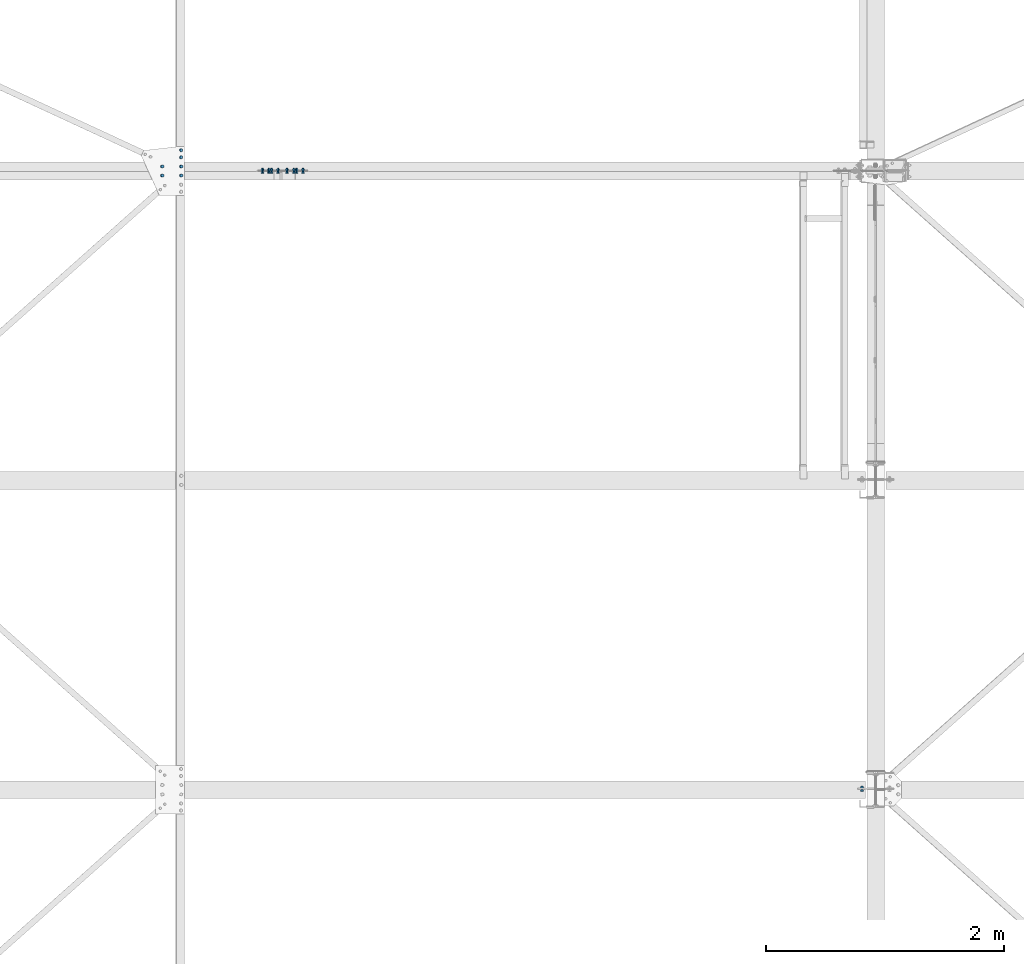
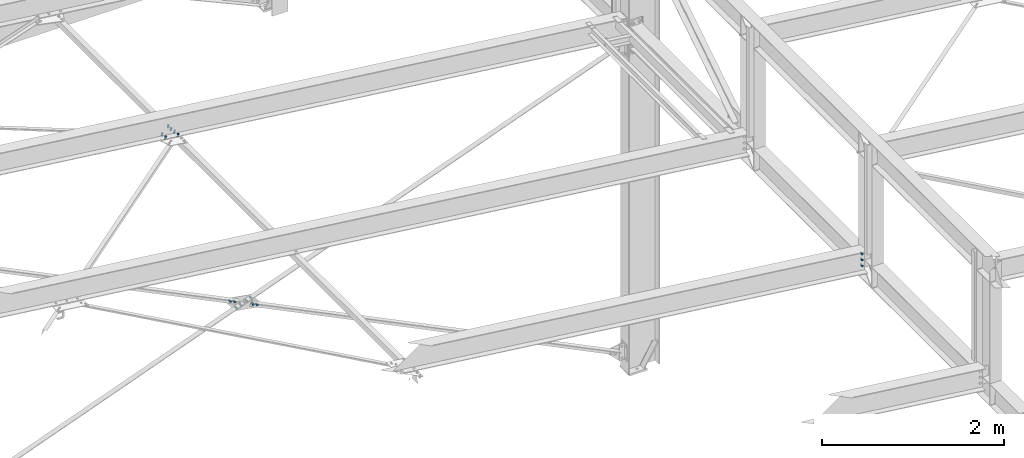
# One storey, part 292 of 3134: 7 mechanical fasteners, 7 elements without a shape of their own.
"""IFC2X3 building model written with IfcOpenShell, lengths in millimetres."""

from ifc_helpers import new_model, si_unit, frame, origin_with_axes, place, context, subcontext, project, spatial, faceted_brep, source, transform, mapped, material, type_object, element, aggregate, save


model = new_model("IFC2X3")

# Units and contexts
model_context = context("Model", 3, precision=1e-05, world=origin_with_axes())
body_context = subcontext(model_context, "Body", "Model", "MODEL_VIEW")
ifc_project = project(units=[si_unit("LENGTHUNIT", "METRE", prefix="MILLI"), si_unit("AREAUNIT", "SQUARE_METRE"), si_unit("VOLUMEUNIT", "CUBIC_METRE"), si_unit("MASSUNIT", "GRAM", prefix="KILO"), si_unit("TIMEUNIT", "SECOND"), si_unit("PLANEANGLEUNIT", "RADIAN"), si_unit("SOLIDANGLEUNIT", "STERADIAN"), si_unit("THERMODYNAMICTEMPERATUREUNIT", "DEGREE_CELSIUS"), si_unit("LUMINOUSINTENSITYUNIT", "LUMEN")], contexts=[model_context])

# Site, building, storey
site_placement = place(None, origin_with_axes())
site = spatial("IfcSite", under=ifc_project, at=site_placement, CompositionType="ELEMENT")
building_placement = place(site_placement, origin_with_axes())
building = spatial("IfcBuilding", under=site, at=building_placement, Name="Undefined", CompositionType="ELEMENT")
storey_placement = place(building_placement, origin_with_axes())
storey = spatial("IfcBuildingStorey", under=building, at=storey_placement, Name="Undefined", CompositionType="ELEMENT", Elevation=0.0)

# Assembly, mechanical fastener
assembly_1_placement = place(storey_placement, origin_with_axes())
assembly_1 = element("IfcElementAssembly", 1, at=assembly_1_placement, inside=storey, Name="300", AssemblyPlace="NOTDEFINED", PredefinedType="RIGID_FRAME")
ifc_material = material(Name="8.8")
mechanical_fastener_type = type_object("IfcMechanicalFastenerType", Name="Bolt assembly")
shared_shape_1 = source(origin_with_axes(), body_context, "Body", "Brep", [
    faceted_brep([(13.856406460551, -13.0499999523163, 0.0), (6.92820323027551, -13.0499999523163, 12.0), (-6.92820323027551, -13.0499999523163, 12.0), (-13.856406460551, -13.0499999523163, 1.69692038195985e-15), (-6.92820323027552, -13.0499999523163, -12.0), (6.9282032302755, -13.0499999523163, -12.0), (6.9282032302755, -3.04999995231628, -12.0), (-6.92820323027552, -3.04999995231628, -12.0), (-13.856406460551, -3.04999995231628, 1.69692038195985e-15), (-6.92820323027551, -3.04999995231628, 12.0), (6.92820323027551, -3.04999995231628, 12.0), (13.856406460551, -3.04999995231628, 0.0), (8.0, -3.04999995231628, 0.0), (6.92820323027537, -3.04999995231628, 4.00000000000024), (3.99999999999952, -3.04999995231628, 6.92820323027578), (-8.29068785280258e-13, -3.04999995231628, 8.0), (-4.00000000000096, -3.04999995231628, 6.92820323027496), (-6.9282032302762, -3.04999995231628, 3.99999999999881), (-8.0, -3.04999995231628, -1.65813757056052e-12), (-6.92820323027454, -3.04999995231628, -4.00000000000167), (-3.99999999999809, -3.04999995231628, -6.92820323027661), (2.47832457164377e-12, -3.04999995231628, -8.0), (4.00000000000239, -3.04999995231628, -6.92820323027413), (6.92820323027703, -3.04999995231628, -3.99999999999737), (6.92820323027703, 31.9500000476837, -3.99999999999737), (4.00000000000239, 31.9500000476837, -6.92820323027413), (2.47832457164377e-12, 31.9500000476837, -8.0), (-3.99999999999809, 31.9500000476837, -6.92820323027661), (-6.92820323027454, 31.9500000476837, -4.00000000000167), (-8.0, 31.9500000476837, -1.65813757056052e-12), (-6.9282032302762, 31.9500000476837, 3.99999999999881), (-4.00000000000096, 31.9500000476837, 6.92820323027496), (-8.29068785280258e-13, 31.9500000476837, 8.0), (3.99999999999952, 31.9500000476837, 6.92820323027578), (6.92820323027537, 31.9500000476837, 4.00000000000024), (8.0, 31.9500000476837, 0.0), (13.856406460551, 13.0500000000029, 0.0), (6.92820323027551, 13.0500000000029, 12.0), (-6.92820323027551, 13.0500000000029, 12.0), (-13.856406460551, 13.0500000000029, 1.69692038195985e-15), (-6.92820323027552, 13.0500000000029, -12.0), (6.9282032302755, 13.0500000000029, -12.0), (6.9282032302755, 26.0500000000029, -12.0), (-6.92820323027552, 26.0500000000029, -12.0), (-13.856406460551, 26.0500000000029, 1.69692038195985e-15), (-6.92820323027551, 26.0500000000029, 12.0), (6.92820323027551, 26.0500000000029, 12.0), (13.856406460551, 26.0500000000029, 0.0)], [[[0, 1, 2, 3, 4, 5]], [[6, 7, 8, 9, 10, 11]], [[0, 11, 10, 1]], [[1, 10, 9, 2]], [[2, 9, 8, 3]], [[3, 8, 7, 4]], [[4, 7, 6, 5]], [[5, 6, 11, 0]], [[12, 13, 14, 15, 16, 17, 18, 19, 20, 21, 22, 23]], [[24, 25, 26, 27, 28, 29, 30, 31, 32, 33, 34, 35]], [[12, 35, 34, 13]], [[13, 34, 33, 14]], [[14, 33, 32, 15]], [[15, 32, 31, 16]], [[16, 31, 30, 17]], [[17, 30, 29, 18]], [[18, 29, 28, 19]], [[19, 28, 27, 20]], [[20, 27, 26, 21]], [[21, 26, 25, 22]], [[22, 25, 24, 23]], [[23, 24, 35, 12]], [[36, 37, 38, 39, 40, 41]], [[42, 43, 44, 45, 46, 47]], [[36, 47, 46, 37]], [[37, 46, 45, 38]], [[38, 45, 44, 39]], [[39, 44, 43, 40]], [[40, 43, 42, 41]], [[41, 42, 47, 36]]]),
    faceted_brep([(9.0, 2.95000000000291, 0.0), (7.79422863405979, 2.95000000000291, 4.50000000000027), (4.49999999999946, 2.95000000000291, 7.79422863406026), (-9.3270238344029e-13, 2.95000000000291, 9.0), (-4.50000000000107, 2.95000000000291, 7.79422863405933), (-7.79422863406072, 2.95000000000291, 4.49999999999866), (-9.0, 2.95000000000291, -1.86540476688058e-12), (-7.79422863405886, 2.95000000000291, -4.50000000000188), (-4.49999999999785, 2.95000000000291, -7.79422863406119), (2.78811514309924e-12, 2.95000000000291, -9.0), (4.50000000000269, 2.95000000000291, -7.7942286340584), (7.79422863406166, 2.95000000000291, -4.49999999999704), (7.79422863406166, 13.0500000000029, -4.49999999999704), (4.50000000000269, 13.0500000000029, -7.7942286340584), (2.78811514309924e-12, 13.0500000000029, -9.0), (-4.49999999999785, 13.0500000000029, -7.79422863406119), (-7.79422863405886, 13.0500000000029, -4.50000000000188), (-9.0, 13.0500000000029, -1.86540476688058e-12), (-7.79422863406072, 13.0500000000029, 4.49999999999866), (-4.50000000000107, 13.0500000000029, 7.79422863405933), (-9.3270238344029e-13, 13.0500000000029, 9.0), (4.49999999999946, 13.0500000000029, 7.79422863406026), (7.79422863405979, 13.0500000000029, 4.50000000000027), (9.0, 13.0500000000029, 0.0), (9.0, -2.94999995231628, 0.0), (7.79422863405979, -2.94999995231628, 4.50000000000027), (4.49999999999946, -2.94999995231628, 7.79422863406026), (-9.3270238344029e-13, -2.94999995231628, 9.0), (-4.50000000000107, -2.94999995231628, 7.79422863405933), (-7.79422863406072, -2.94999995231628, 4.49999999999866), (-9.0, -2.94999995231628, -1.86540476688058e-12), (-7.79422863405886, -2.94999995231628, -4.50000000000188), (-4.49999999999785, -2.94999995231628, -7.79422863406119), (2.78811514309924e-12, -2.94999995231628, -9.0), (4.50000000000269, -2.94999995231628, -7.7942286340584), (7.79422863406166, -2.94999995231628, -4.49999999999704), (7.79422863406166, 3.14999995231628, -4.49999999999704), (4.50000000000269, 3.14999995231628, -7.7942286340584), (2.78811514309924e-12, 3.14999995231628, -9.0), (-4.49999999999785, 3.14999995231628, -7.79422863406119), (-7.79422863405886, 3.14999995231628, -4.50000000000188), (-9.0, 3.14999995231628, -1.86540476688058e-12), (-7.79422863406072, 3.14999995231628, 4.49999999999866), (-4.50000000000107, 3.14999995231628, 7.79422863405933), (-9.3270238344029e-13, 3.14999995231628, 9.0), (4.49999999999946, 3.14999995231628, 7.79422863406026), (7.79422863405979, 3.14999995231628, 4.50000000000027), (9.0, 3.14999995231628, 0.0)], [[[0, 1, 2, 3, 4, 5, 6, 7, 8, 9, 10, 11]], [[12, 13, 14, 15, 16, 17, 18, 19, 20, 21, 22, 23]], [[0, 23, 22, 1]], [[1, 22, 21, 2]], [[2, 21, 20, 3]], [[3, 20, 19, 4]], [[4, 19, 18, 5]], [[5, 18, 17, 6]], [[6, 17, 16, 7]], [[7, 16, 15, 8]], [[8, 15, 14, 9]], [[9, 14, 13, 10]], [[10, 13, 12, 11]], [[11, 12, 23, 0]], [[24, 25, 26, 27, 28, 29, 30, 31, 32, 33, 34, 35]], [[36, 37, 38, 39, 40, 41, 42, 43, 44, 45, 46, 47]], [[24, 47, 46, 25]], [[25, 46, 45, 26]], [[26, 45, 44, 27]], [[27, 44, 43, 28]], [[28, 43, 42, 29]], [[29, 42, 41, 30]], [[30, 41, 40, 31]], [[31, 40, 39, 32]], [[32, 39, 38, 33]], [[33, 38, 37, 34]], [[34, 37, 36, 35]], [[35, 36, 47, 24]]]),
])
mechanical_fastener_1_placement = place(assembly_1_placement, frame((55760.0, 55850.0, 4337.44269270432), z_axis=(1.0, 0.0, 0.0), x_axis=(0.0, 0.0, -1.0)))
mechanical_fastener_1 = element("IfcMechanicalFastener", 2, at=mechanical_fastener_1_placement, type_object=mechanical_fastener_type, material=ifc_material, Name="Bolt assembly", NominalDiameter=16.0, NominalLength=35.0, context=body_context, shape_type="MappedRepresentation", body=[
    mapped(shared_shape_1, transform((0.0, 0.0, 0.0))),
    mapped(shared_shape_1, transform((80.0, 0.0, 0.0))),
    mapped(shared_shape_1, transform((160.0, 0.0, 0.0))),
])
aggregate(assembly_1, [mechanical_fastener_1])

assembly_2_placement = place(storey_placement, origin_with_axes())
assembly_2 = element("IfcElementAssembly", 3, at=assembly_2_placement, inside=storey, AssemblyPlace="NOTDEFINED", PredefinedType="RIGID_FRAME")
shared_shape_2 = source(origin_with_axes(), body_context, "Body", "Brep", [
    faceted_brep([(13.856406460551, -21.0000017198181, 0.0), (6.92820323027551, -21.0000017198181, 12.0), (-6.92820323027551, -21.0000017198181, 12.0), (-13.856406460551, -21.0000017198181, 1.69692038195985e-15), (-6.92820323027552, -21.0000017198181, -12.0), (6.9282032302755, -21.0000017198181, -12.0), (6.9282032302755, -11.0000017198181, -12.0), (-6.92820323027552, -11.0000017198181, -12.0), (-13.856406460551, -11.0000017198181, 1.69692038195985e-15), (-6.92820323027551, -11.0000017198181, 12.0), (6.92820323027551, -11.0000017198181, 12.0), (13.856406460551, -11.0000017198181, 0.0), (8.0, -11.0000017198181, 0.0), (6.92820323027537, -11.0000017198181, 4.00000000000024), (3.99999999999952, -11.0000017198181, 6.92820323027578), (-8.29068785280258e-13, -11.0000017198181, 8.0), (-4.00000000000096, -11.0000017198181, 6.92820323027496), (-6.9282032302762, -11.0000017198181, 3.99999999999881), (-8.0, -11.0000017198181, -1.65813757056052e-12), (-6.92820323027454, -11.0000017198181, -4.00000000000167), (-3.99999999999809, -11.0000017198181, -6.92820323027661), (2.47832457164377e-12, -11.0000017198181, -8.0), (4.00000000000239, -11.0000017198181, -6.92820323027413), (6.92820323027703, -11.0000017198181, -3.99999999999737), (6.92820323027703, 23.9999999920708, -3.99999999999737), (4.00000000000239, 23.9999999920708, -6.92820323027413), (2.47832457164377e-12, 23.9999999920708, -8.0), (-3.99999999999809, 23.9999999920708, -6.92820323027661), (-6.92820323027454, 23.9999999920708, -4.00000000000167), (-8.0, 23.9999999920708, -1.65813757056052e-12), (-6.9282032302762, 23.9999999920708, 3.99999999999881), (-4.00000000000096, 23.9999999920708, 6.92820323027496), (-8.29068785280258e-13, 23.9999999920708, 8.0), (3.99999999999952, 23.9999999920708, 6.92820323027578), (6.92820323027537, 23.9999999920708, 4.00000000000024), (8.0, 23.9999999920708, 0.0), (13.856406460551, 3.99999999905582, 0.0), (6.92820323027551, 3.99999999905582, 12.0), (-6.92820323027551, 3.99999999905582, 12.0), (-13.856406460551, 3.99999999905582, 1.69692038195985e-15), (-6.92820323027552, 3.99999999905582, -12.0), (6.9282032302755, 3.99999999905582, -12.0), (6.9282032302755, 16.9999999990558, -12.0), (-6.92820323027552, 16.9999999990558, -12.0), (-13.856406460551, 16.9999999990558, 1.69692038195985e-15), (-6.92820323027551, 16.9999999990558, 12.0), (6.92820323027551, 16.9999999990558, 12.0), (13.856406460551, 16.9999999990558, 0.0)], [[[0, 1, 2, 3, 4, 5]], [[6, 7, 8, 9, 10, 11]], [[0, 11, 10, 1]], [[1, 10, 9, 2]], [[2, 9, 8, 3]], [[3, 8, 7, 4]], [[4, 7, 6, 5]], [[5, 6, 11, 0]], [[12, 13, 14, 15, 16, 17, 18, 19, 20, 21, 22, 23]], [[24, 25, 26, 27, 28, 29, 30, 31, 32, 33, 34, 35]], [[12, 35, 34, 13]], [[13, 34, 33, 14]], [[14, 33, 32, 15]], [[15, 32, 31, 16]], [[16, 31, 30, 17]], [[17, 30, 29, 18]], [[18, 29, 28, 19]], [[19, 28, 27, 20]], [[20, 27, 26, 21]], [[21, 26, 25, 22]], [[22, 25, 24, 23]], [[23, 24, 35, 12]], [[36, 37, 38, 39, 40, 41]], [[42, 43, 44, 45, 46, 47]], [[36, 47, 46, 37]], [[37, 46, 45, 38]], [[38, 45, 44, 39]], [[39, 44, 43, 40]], [[40, 43, 42, 41]], [[41, 42, 47, 36]]]),
    faceted_brep([(9.0, -4.10000000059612, 0.0), (7.79422863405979, -4.10000000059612, 4.50000000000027), (4.49999999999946, -4.10000000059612, 7.79422863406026), (-9.3270238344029e-13, -4.10000000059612, 9.0), (-4.50000000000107, -4.10000000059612, 7.79422863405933), (-7.79422863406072, -4.10000000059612, 4.49999999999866), (-9.0, -4.10000000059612, -1.86540476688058e-12), (-7.79422863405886, -4.10000000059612, -4.50000000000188), (-4.49999999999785, -4.10000000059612, -7.79422863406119), (2.78811514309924e-12, -4.10000000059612, -9.0), (4.50000000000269, -4.10000000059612, -7.7942286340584), (7.79422863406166, -4.10000000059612, -4.49999999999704), (7.79422863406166, 4.00000375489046, -4.49999999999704), (4.50000000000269, 4.00000375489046, -7.7942286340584), (2.78811514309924e-12, 4.00000375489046, -9.0), (-4.49999999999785, 4.00000375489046, -7.79422863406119), (-7.79422863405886, 4.00000375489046, -4.50000000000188), (-9.0, 4.00000375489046, -1.86540476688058e-12), (-7.79422863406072, 4.00000375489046, 4.49999999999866), (-4.50000000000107, 4.00000375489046, 7.79422863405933), (-9.3270238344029e-13, 4.00000375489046, 9.0), (4.49999999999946, 4.00000375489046, 7.79422863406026), (7.79422863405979, 4.00000375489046, 4.50000000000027), (9.0, 4.00000375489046, 0.0), (9.0, -10.9000017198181, 0.0), (7.79422863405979, -10.9000017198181, 4.50000000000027), (4.49999999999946, -10.9000017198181, 7.79422863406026), (-9.3270238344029e-13, -10.9000017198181, 9.0), (-4.50000000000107, -10.9000017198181, 7.79422863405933), (-7.79422863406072, -10.9000017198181, 4.49999999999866), (-9.0, -10.9000017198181, -1.86540476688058e-12), (-7.79422863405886, -10.9000017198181, -4.50000000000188), (-4.49999999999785, -10.9000017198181, -7.79422863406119), (2.78811514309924e-12, -10.9000017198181, -9.0), (4.50000000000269, -10.9000017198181, -7.7942286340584), (7.79422863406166, -10.9000017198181, -4.49999999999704), (7.79422863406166, -3.9, -4.49999999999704), (4.50000000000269, -3.9, -7.7942286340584), (2.78811514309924e-12, -3.9, -9.0), (-4.49999999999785, -3.9, -7.79422863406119), (-7.79422863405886, -3.9, -4.50000000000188), (-9.0, -3.9, -1.86540476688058e-12), (-7.79422863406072, -3.9, 4.49999999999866), (-4.50000000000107, -3.9, 7.79422863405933), (-9.3270238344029e-13, -3.9, 9.0), (4.49999999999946, -3.9, 7.79422863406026), (7.79422863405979, -3.9, 4.50000000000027), (9.0, -3.9, 0.0)], [[[0, 1, 2, 3, 4, 5, 6, 7, 8, 9, 10, 11]], [[12, 13, 14, 15, 16, 17, 18, 19, 20, 21, 22, 23]], [[0, 23, 22, 1]], [[1, 22, 21, 2]], [[2, 21, 20, 3]], [[3, 20, 19, 4]], [[4, 19, 18, 5]], [[5, 18, 17, 6]], [[6, 17, 16, 7]], [[7, 16, 15, 8]], [[8, 15, 14, 9]], [[9, 14, 13, 10]], [[10, 13, 12, 11]], [[11, 12, 23, 0]], [[24, 25, 26, 27, 28, 29, 30, 31, 32, 33, 34, 35]], [[36, 37, 38, 39, 40, 41, 42, 43, 44, 45, 46, 47]], [[24, 47, 46, 25]], [[25, 46, 45, 26]], [[26, 45, 44, 27]], [[27, 44, 43, 28]], [[28, 43, 42, 29]], [[29, 42, 41, 30]], [[30, 41, 40, 31]], [[31, 40, 39, 32]], [[32, 39, 38, 33]], [[33, 38, 37, 34]], [[34, 37, 36, 35]], [[35, 36, 47, 24]]]),
])
mechanical_fastener_2_placement = place(assembly_2_placement, frame((50720.2513193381, 61050.0, 2316.18413192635), z_axis=(0.440953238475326, 0.0, 0.897530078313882), x_axis=(0.897530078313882, 0.0, -0.440953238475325)))
mechanical_fastener_2 = element("IfcMechanicalFastener", 4, at=mechanical_fastener_2_placement, type_object=mechanical_fastener_type, material=ifc_material, Name="Bolt assembly", NominalDiameter=16.0, NominalLength=35.0, context=body_context, shape_type="MappedRepresentation", body=[
    mapped(shared_shape_2, transform((0.0, 0.0, 0.0))),
    mapped(shared_shape_2, transform((59.9999999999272, 0.0, 5.40239852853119e-10))),
])
aggregate(assembly_2, [mechanical_fastener_2])

assembly_3_placement = place(storey_placement, origin_with_axes())
assembly_3 = element("IfcElementAssembly", 5, at=assembly_3_placement, inside=storey, AssemblyPlace="NOTDEFINED", PredefinedType="RIGID_FRAME")
mechanical_fastener_3_placement = place(assembly_3_placement, frame((50928.2878097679, 61050.0, 2246.30805833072), z_axis=(-0.347632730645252, 0.0, 0.937630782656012), x_axis=(0.937630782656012, 0.0, 0.347632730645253)))
mechanical_fastener_3 = element("IfcMechanicalFastener", 6, at=mechanical_fastener_3_placement, type_object=mechanical_fastener_type, material=ifc_material, Name="Bolt assembly", NominalDiameter=16.0, NominalLength=35.0, context=body_context, shape_type="MappedRepresentation", body=[
    mapped(shared_shape_2, transform((0.0, 0.0, 0.0))),
    mapped(shared_shape_2, transform((59.9999999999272, 0.0, 5.40239852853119e-10))),
])
aggregate(assembly_3, [mechanical_fastener_3])

assembly_4_placement = place(storey_placement, origin_with_axes())
assembly_4 = element("IfcElementAssembly", 7, at=assembly_4_placement, inside=storey, AssemblyPlace="NOTDEFINED", PredefinedType="RIGID_FRAME")
mechanical_fastener_4_placement = place(assembly_4_placement, frame((50797.0189429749, 61050.0, 2197.63926944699), z_axis=(-0.347632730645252, 0.0, 0.937630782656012), x_axis=(0.937630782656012, 0.0, 0.347632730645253)))
mechanical_fastener_4 = element("IfcMechanicalFastener", 8, at=mechanical_fastener_4_placement, type_object=mechanical_fastener_type, material=ifc_material, Name="Bolt assembly", NominalDiameter=16.0, NominalLength=35.0, context=body_context, shape_type="MappedRepresentation", body=[
    mapped(shared_shape_2, transform((0.0, 0.0, 0.0))),
    mapped(shared_shape_2, transform((59.9999999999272, 0.0, 5.40239852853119e-10))),
])
aggregate(assembly_4, [mechanical_fastener_4])

assembly_5_placement = place(storey_placement, origin_with_axes())
assembly_5 = element("IfcElementAssembly", 9, at=assembly_5_placement, inside=storey, AssemblyPlace="NOTDEFINED", PredefinedType="RIGID_FRAME")
mechanical_fastener_5_placement = place(assembly_5_placement, frame((51007.4614887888, 61050.0, 2175.07882815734), z_axis=(0.440953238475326, 0.0, 0.897530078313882), x_axis=(0.897530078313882, 0.0, -0.440953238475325)))
mechanical_fastener_5 = element("IfcMechanicalFastener", 10, at=mechanical_fastener_5_placement, type_object=mechanical_fastener_type, material=ifc_material, Name="Bolt assembly", NominalDiameter=16.0, NominalLength=35.0, context=body_context, shape_type="MappedRepresentation", body=[
    mapped(shared_shape_2, transform((0.0, 0.0, 0.0))),
    mapped(shared_shape_2, transform((59.9999999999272, 0.0, 5.40239852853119e-10))),
])
aggregate(assembly_5, [mechanical_fastener_5])

assembly_6_placement = place(storey_placement, origin_with_axes())
assembly_6 = element("IfcElementAssembly", 11, at=assembly_6_placement, inside=storey, Name="PL8", AssemblyPlace="NOTDEFINED", PredefinedType="RIGID_FRAME")
shared_shape_3 = source(origin_with_axes(), body_context, "Body", "Brep", [
    faceted_brep([(13.856406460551, -19.199990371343, 0.0), (6.92820323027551, -19.199990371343, 12.0), (-6.92820323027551, -19.199990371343, 12.0), (-13.856406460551, -19.199990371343, 1.69692038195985e-15), (-6.92820323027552, -19.199990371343, -12.0), (6.9282032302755, -19.199990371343, -12.0), (6.9282032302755, -9.19999037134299, -12.0), (-6.92820323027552, -9.19999037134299, -12.0), (-13.856406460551, -9.19999037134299, 1.69692038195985e-15), (-6.92820323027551, -9.19999037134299, 12.0), (6.92820323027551, -9.19999037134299, 12.0), (13.856406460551, -9.19999037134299, 0.0), (8.0, -9.19999037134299, 0.0), (6.92820323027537, -9.19999037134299, 4.00000000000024), (3.99999999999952, -9.19999037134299, 6.92820323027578), (-8.29068785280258e-13, -9.19999037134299, 8.0), (-4.00000000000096, -9.19999037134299, 6.92820323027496), (-6.9282032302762, -9.19999037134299, 3.99999999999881), (-8.0, -9.19999037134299, -1.65813757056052e-12), (-6.92820323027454, -9.19999037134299, -4.00000000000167), (-3.99999999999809, -9.19999037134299, -6.92820323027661), (2.47832457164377e-12, -9.19999037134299, -8.0), (4.00000000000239, -9.19999037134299, -6.92820323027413), (6.92820323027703, -9.19999037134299, -3.99999999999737), (6.92820323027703, 25.800009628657, -3.99999999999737), (4.00000000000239, 25.800009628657, -6.92820323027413), (2.47832457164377e-12, 25.800009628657, -8.0), (-3.99999999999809, 25.800009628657, -6.92820323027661), (-6.92820323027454, 25.800009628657, -4.00000000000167), (-8.0, 25.800009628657, -1.65813757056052e-12), (-6.9282032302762, 25.800009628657, 3.99999999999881), (-4.00000000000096, 25.800009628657, 6.92820323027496), (-8.29068785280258e-13, 25.800009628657, 8.0), (3.99999999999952, 25.800009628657, 6.92820323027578), (6.92820323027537, 25.800009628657, 4.00000000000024), (8.0, 25.800009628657, 0.0), (13.856406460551, 8.00000637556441, 0.0), (6.92820323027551, 8.00000637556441, 12.0), (-6.92820323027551, 8.00000637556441, 12.0), (-13.856406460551, 8.00000637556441, 1.69692038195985e-15), (-6.92820323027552, 8.00000637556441, -12.0), (6.9282032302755, 8.00000637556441, -12.0), (6.9282032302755, 21.0000063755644, -12.0), (-6.92820323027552, 21.0000063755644, -12.0), (-13.856406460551, 21.0000063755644, 1.69692038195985e-15), (-6.92820323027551, 21.0000063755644, 12.0), (6.92820323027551, 21.0000063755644, 12.0), (13.856406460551, 21.0000063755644, 0.0)], [[[0, 1, 2, 3, 4, 5]], [[6, 7, 8, 9, 10, 11]], [[0, 11, 10, 1]], [[1, 10, 9, 2]], [[2, 9, 8, 3]], [[3, 8, 7, 4]], [[4, 7, 6, 5]], [[5, 6, 11, 0]], [[12, 13, 14, 15, 16, 17, 18, 19, 20, 21, 22, 23]], [[24, 25, 26, 27, 28, 29, 30, 31, 32, 33, 34, 35]], [[12, 35, 34, 13]], [[13, 34, 33, 14]], [[14, 33, 32, 15]], [[15, 32, 31, 16]], [[16, 31, 30, 17]], [[17, 30, 29, 18]], [[18, 29, 28, 19]], [[19, 28, 27, 20]], [[20, 27, 26, 21]], [[21, 26, 25, 22]], [[22, 25, 24, 23]], [[23, 24, 35, 12]], [[36, 37, 38, 39, 40, 41]], [[42, 43, 44, 45, 46, 47]], [[36, 47, 46, 37]], [[37, 46, 45, 38]], [[38, 45, 44, 39]], [[39, 44, 43, 40]], [[40, 43, 42, 41]], [[41, 42, 47, 36]]]),
    faceted_brep([(9.0, -9.09999037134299, 0.0), (7.79422863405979, -9.09999037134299, 4.50000000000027), (4.49999999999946, -9.09999037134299, 7.79422863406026), (-9.3270238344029e-13, -9.09999037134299, 9.0), (-4.50000000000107, -9.09999037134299, 7.79422863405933), (-7.79422863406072, -9.09999037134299, 4.49999999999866), (-9.0, -9.09999037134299, -1.86540476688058e-12), (-7.79422863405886, -9.09999037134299, -4.50000000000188), (-4.49999999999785, -9.09999037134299, -7.79422863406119), (2.78811514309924e-12, -9.09999037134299, -9.0), (4.50000000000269, -9.09999037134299, -7.7942286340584), (7.79422863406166, -9.09999037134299, -4.49999999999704), (7.79422863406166, 0.100000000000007, -4.49999999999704), (4.50000000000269, 0.100000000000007, -7.7942286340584), (2.78811514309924e-12, 0.100000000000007, -9.0), (-4.49999999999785, 0.100000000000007, -7.79422863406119), (-7.79422863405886, 0.100000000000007, -4.50000000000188), (-9.0, 0.100000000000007, -1.86540476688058e-12), (-7.79422863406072, 0.100000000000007, 4.49999999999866), (-4.50000000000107, 0.100000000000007, 7.79422863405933), (-9.3270238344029e-13, 0.100000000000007, 9.0), (4.49999999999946, 0.100000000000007, 7.79422863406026), (7.79422863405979, 0.100000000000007, 4.50000000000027), (9.0, 0.100000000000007, 0.0), (9.0, -0.1, 0.0), (7.79422863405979, -0.1, 4.50000000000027), (4.49999999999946, -0.1, 7.79422863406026), (-9.3270238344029e-13, -0.1, 9.0), (-4.50000000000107, -0.1, 7.79422863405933), (-7.79422863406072, -0.1, 4.49999999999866), (-9.0, -0.1, -1.86540476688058e-12), (-7.79422863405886, -0.1, -4.50000000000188), (-4.49999999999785, -0.1, -7.79422863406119), (2.78811514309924e-12, -0.1, -9.0), (4.50000000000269, -0.1, -7.7942286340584), (7.79422863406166, -0.1, -4.49999999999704), (7.79422863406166, 8.00000000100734, -4.49999999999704), (4.50000000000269, 8.00000000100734, -7.7942286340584), (2.78811514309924e-12, 8.00000000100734, -9.0), (-4.49999999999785, 8.00000000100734, -7.79422863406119), (-7.79422863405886, 8.00000000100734, -4.50000000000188), (-9.0, 8.00000000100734, -1.86540476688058e-12), (-7.79422863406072, 8.00000000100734, 4.49999999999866), (-4.50000000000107, 8.00000000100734, 7.79422863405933), (-9.3270238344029e-13, 8.00000000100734, 9.0), (4.49999999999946, 8.00000000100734, 7.79422863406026), (7.79422863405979, 8.00000000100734, 4.50000000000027), (9.0, 8.00000000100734, 0.0)], [[[0, 1, 2, 3, 4, 5, 6, 7, 8, 9, 10, 11]], [[12, 13, 14, 15, 16, 17, 18, 19, 20, 21, 22, 23]], [[0, 23, 22, 1]], [[1, 22, 21, 2]], [[2, 21, 20, 3]], [[3, 20, 19, 4]], [[4, 19, 18, 5]], [[5, 18, 17, 6]], [[6, 17, 16, 7]], [[7, 16, 15, 8]], [[8, 15, 14, 9]], [[9, 14, 13, 10]], [[10, 13, 12, 11]], [[11, 12, 23, 0]], [[24, 25, 26, 27, 28, 29, 30, 31, 32, 33, 34, 35]], [[36, 37, 38, 39, 40, 41, 42, 43, 44, 45, 46, 47]], [[24, 47, 46, 25]], [[25, 46, 45, 26]], [[26, 45, 44, 27]], [[27, 44, 43, 28]], [[28, 43, 42, 29]], [[29, 42, 41, 30]], [[30, 41, 40, 31]], [[31, 40, 39, 32]], [[32, 39, 38, 33]], [[33, 38, 37, 34]], [[34, 37, 36, 35]], [[35, 36, 47, 24]]]),
])
mechanical_fastener_6_placement = place(assembly_6_placement, frame((49958.575106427, 61012.0, 4816.43281405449), z_axis=(-0.992623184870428, 0.0, 0.121240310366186), x_axis=(0.0, 1.0, 0.0)))
mechanical_fastener_6 = element("IfcMechanicalFastener", 12, at=mechanical_fastener_6_placement, type_object=mechanical_fastener_type, material=ifc_material, Name="Bolt assembly", NominalDiameter=16.0, NominalLength=35.0, context=body_context, shape_type="MappedRepresentation", body=[
    mapped(shared_shape_3, transform((0.0, -5.32963895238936e-10, -79.9999999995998))),
    mapped(shared_shape_3, transform((76.0, -5.32963895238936e-10, -79.9999999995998))),
    mapped(shared_shape_3, transform((0.0, 5.3114490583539e-10, 79.9999999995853))),
    mapped(shared_shape_3, transform((76.0, 5.3114490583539e-10, 79.9999999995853))),
])
aggregate(assembly_6, [mechanical_fastener_6])

assembly_7_placement = place(storey_placement, origin_with_axes())
assembly_7 = element("IfcElementAssembly", 13, at=assembly_7_placement, inside=storey, AssemblyPlace="NOTDEFINED", PredefinedType="RIGID_FRAME")
shared_shape_4 = source(origin_with_axes(), body_context, "Body", "Brep", [
    faceted_brep([(13.856406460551, -10.0, 0.0), (6.92820323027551, -10.0, 12.0), (-6.92820323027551, -10.0, 12.0), (-13.856406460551, -10.0, 1.69692038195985e-15), (-6.92820323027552, -10.0, -12.0), (6.9282032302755, -10.0, -12.0), (6.9282032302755, 0.0, -12.0), (-6.92820323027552, 0.0, -12.0), (-13.856406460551, 0.0, 1.69692038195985e-15), (-6.92820323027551, 0.0, 12.0), (6.92820323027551, 0.0, 12.0), (13.856406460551, 0.0, 0.0), (8.0, 0.0, 0.0), (6.92820323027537, 0.0, 4.00000000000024), (3.99999999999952, 0.0, 6.92820323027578), (-8.29068785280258e-13, 0.0, 8.0), (-4.00000000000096, 0.0, 6.92820323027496), (-6.9282032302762, 0.0, 3.99999999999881), (-8.0, 0.0, -1.65813757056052e-12), (-6.92820323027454, 0.0, -4.00000000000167), (-3.99999999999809, 0.0, -6.92820323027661), (2.47832457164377e-12, 0.0, -8.0), (4.00000000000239, 0.0, -6.92820323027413), (6.92820323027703, 0.0, -3.99999999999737), (6.92820323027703, 35.0000000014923, -3.99999999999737), (4.00000000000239, 35.0000000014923, -6.92820323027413), (2.47832457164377e-12, 35.0000000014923, -8.0), (-3.99999999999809, 35.0000000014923, -6.92820323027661), (-6.92820323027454, 35.0000000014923, -4.00000000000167), (-8.0, 35.0000000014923, -1.65813757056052e-12), (-6.9282032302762, 35.0000000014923, 3.99999999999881), (-4.00000000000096, 35.0000000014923, 6.92820323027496), (-8.29068785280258e-13, 35.0000000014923, 8.0), (3.99999999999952, 35.0000000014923, 6.92820323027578), (6.92820323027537, 35.0000000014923, 4.00000000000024), (8.0, 35.0000000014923, 0.0), (13.856406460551, 14.9990000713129, 0.0), (6.92820323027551, 14.9990000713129, 12.0), (-6.92820323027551, 14.9990000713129, 12.0), (-13.856406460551, 14.9990000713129, 1.69692038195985e-15), (-6.92820323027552, 14.9990000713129, -12.0), (6.9282032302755, 14.9990000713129, -12.0), (6.9282032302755, 27.9990000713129, -12.0), (-6.92820323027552, 27.9990000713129, -12.0), (-13.856406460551, 27.9990000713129, 1.69692038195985e-15), (-6.92820323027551, 27.9990000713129, 12.0), (6.92820323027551, 27.9990000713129, 12.0), (13.856406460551, 27.9990000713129, 0.0)], [[[0, 1, 2, 3, 4, 5]], [[6, 7, 8, 9, 10, 11]], [[0, 11, 10, 1]], [[1, 10, 9, 2]], [[2, 9, 8, 3]], [[3, 8, 7, 4]], [[4, 7, 6, 5]], [[5, 6, 11, 0]], [[12, 13, 14, 15, 16, 17, 18, 19, 20, 21, 22, 23]], [[24, 25, 26, 27, 28, 29, 30, 31, 32, 33, 34, 35]], [[12, 35, 34, 13]], [[13, 34, 33, 14]], [[14, 33, 32, 15]], [[15, 32, 31, 16]], [[16, 31, 30, 17]], [[17, 30, 29, 18]], [[18, 29, 28, 19]], [[19, 28, 27, 20]], [[20, 27, 26, 21]], [[21, 26, 25, 22]], [[22, 25, 24, 23]], [[23, 24, 35, 12]], [[36, 37, 38, 39, 40, 41]], [[42, 43, 44, 45, 46, 47]], [[36, 47, 46, 37]], [[37, 46, 45, 38]], [[38, 45, 44, 39]], [[39, 44, 43, 40]], [[40, 43, 42, 41]], [[41, 42, 47, 36]]]),
    faceted_brep([(9.0, 0.100000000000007, 0.0), (7.79422863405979, 0.100000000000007, 4.50000000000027), (4.49999999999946, 0.100000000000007, 7.79422863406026), (-9.3270238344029e-13, 0.100000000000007, 9.0), (-4.50000000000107, 0.100000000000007, 7.79422863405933), (-7.79422863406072, 0.100000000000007, 4.49999999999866), (-9.0, 0.100000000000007, -1.86540476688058e-12), (-7.79422863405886, 0.100000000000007, -4.50000000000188), (-4.49999999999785, 0.100000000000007, -7.79422863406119), (2.78811514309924e-12, 0.100000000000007, -9.0), (4.50000000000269, 0.100000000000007, -7.7942286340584), (7.79422863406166, 0.100000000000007, -4.49999999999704), (7.79422863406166, 8.1, -4.49999999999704), (4.50000000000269, 8.1, -7.7942286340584), (2.78811514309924e-12, 8.1, -9.0), (-4.49999999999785, 8.1, -7.79422863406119), (-7.79422863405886, 8.1, -4.50000000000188), (-9.0, 8.1, -1.86540476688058e-12), (-7.79422863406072, 8.1, 4.49999999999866), (-4.50000000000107, 8.1, 7.79422863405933), (-9.3270238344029e-13, 8.1, 9.0), (4.49999999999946, 8.1, 7.79422863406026), (7.79422863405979, 8.1, 4.50000000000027), (9.0, 8.1, 0.0), (9.0, 7.89900007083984, 0.0), (7.79422863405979, 7.89900007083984, 4.50000000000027), (4.49999999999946, 7.89900007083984, 7.79422863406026), (-9.3270238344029e-13, 7.89900007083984, 9.0), (-4.50000000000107, 7.89900007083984, 7.79422863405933), (-7.79422863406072, 7.89900007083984, 4.49999999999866), (-9.0, 7.89900007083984, -1.86540476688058e-12), (-7.79422863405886, 7.89900007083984, -4.50000000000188), (-4.49999999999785, 7.89900007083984, -7.79422863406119), (2.78811514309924e-12, 7.89900007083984, -9.0), (4.50000000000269, 7.89900007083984, -7.7942286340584), (7.79422863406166, 7.89900007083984, -4.49999999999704), (7.79422863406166, 14.9990000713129, -4.49999999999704), (4.50000000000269, 14.9990000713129, -7.7942286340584), (2.78811514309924e-12, 14.9990000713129, -9.0), (-4.49999999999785, 14.9990000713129, -7.79422863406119), (-7.79422863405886, 14.9990000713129, -4.50000000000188), (-9.0, 14.9990000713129, -1.86540476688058e-12), (-7.79422863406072, 14.9990000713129, 4.49999999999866), (-4.50000000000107, 14.9990000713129, 7.79422863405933), (-9.3270238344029e-13, 14.9990000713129, 9.0), (4.49999999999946, 14.9990000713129, 7.79422863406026), (7.79422863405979, 14.9990000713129, 4.50000000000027), (9.0, 14.9990000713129, 0.0)], [[[0, 1, 2, 3, 4, 5, 6, 7, 8, 9, 10, 11]], [[12, 13, 14, 15, 16, 17, 18, 19, 20, 21, 22, 23]], [[0, 23, 22, 1]], [[1, 22, 21, 2]], [[2, 21, 20, 3]], [[3, 20, 19, 4]], [[4, 19, 18, 5]], [[5, 18, 17, 6]], [[6, 17, 16, 7]], [[7, 16, 15, 8]], [[8, 15, 14, 9]], [[9, 14, 13, 10]], [[10, 13, 12, 11]], [[11, 12, 23, 0]], [[24, 25, 26, 27, 28, 29, 30, 31, 32, 33, 34, 35]], [[36, 37, 38, 39, 40, 41, 42, 43, 44, 45, 46, 47]], [[24, 47, 46, 25]], [[25, 46, 45, 26]], [[26, 45, 44, 27]], [[27, 44, 43, 28]], [[28, 43, 42, 29]], [[29, 42, 41, 30]], [[30, 41, 40, 31]], [[31, 40, 39, 32]], [[32, 39, 38, 33]], [[33, 38, 37, 34]], [[34, 37, 36, 35]], [[35, 36, 47, 24]]]),
])
mechanical_fastener_7_placement = place(assembly_7_placement, frame((50037.9849612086, 61225.0, 4806.73358922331), z_axis=(0.992623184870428, 0.0, -0.121240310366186), x_axis=(0.0, -1.0, 0.0)))
mechanical_fastener_7 = element("IfcMechanicalFastener", 14, at=mechanical_fastener_7_placement, type_object=mechanical_fastener_type, material=ifc_material, Name="Bolt assembly", NominalDiameter=16.0, NominalLength=35.0, context=body_context, shape_type="MappedRepresentation", body=[
    mapped(shared_shape_4, transform((0.0, 0.0, 0.0))),
    mapped(shared_shape_4, transform((59.9999999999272, 0.0, 5.40239852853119e-10))),
])
aggregate(assembly_7, [mechanical_fastener_7])

save(model, "model.ifc")
